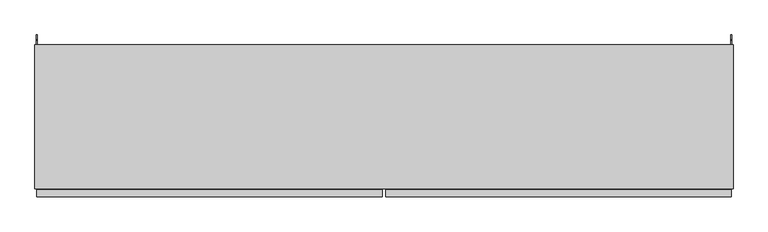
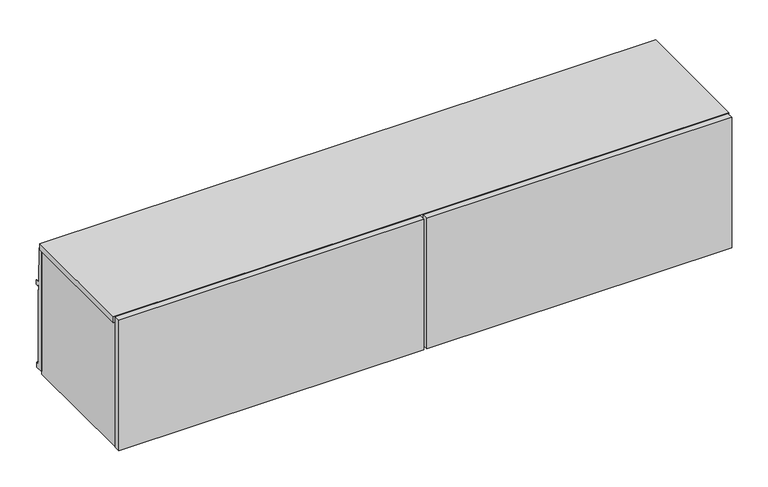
"""IFC4 building model written with IfcOpenShell, lengths in millimetres: furniture geometry, Steelcase - Universal Storage - Over the Case Bin - Flat Front : For Montage - 72W."""

from ifc_helpers import new_model, si_unit, frame, origin, place, context, project, spatial, polyline, outline, extrude, source, transform, mapped, element, save


def furniture_763f8af6(model_context):
    return source(origin(), model_context, "Body", "SweptSolid", [
        extrude(outline(polyline([(918.972, -379.476), (1824.3703, -379.476), (1824.3703, -398.526), (918.972, -398.526), (918.972, -379.476)])), frame((0.0, 0.0, 1266.8226746), z_axis=(0.0, 0.0, 1.0), x_axis=(1.0, 0.0, 0.0)), (0.0, 0.0, 1.0), 409.5773254),
        extrude(outline(polyline([(4.4448587, -379.476), (909.828, -379.476), (909.828, -398.526), (4.4448587, -398.526), (4.4448587, -379.476)])), frame((0.0, 0.0, 1266.8226746), z_axis=(0.0, 0.0, 1.0), x_axis=(1.0, 0.0, 0.0)), (0.0, 0.0, 1.0), 409.5773254),
        extrude(outline(polyline([(0.0, 1657.096), (10.1677703, 1657.096), (13.3857995, 1545.8185744), (26.0095997, 1545.8185744), (26.0095997, 1532.1025512), (17.5768, 1532.1025512), (17.5768, 1537.1064608), (13.3349998, 1537.1064608), (13.3349998, 1522.6538546), (14.2747998, 1522.6538546), (14.2747998, 1296.0858527), (17.2466001, 1296.0858527), (17.2466001, 1289.7358043), (22.5806007, 1289.7358043), (22.5806007, 1274.2164027), (0.0, 1274.2164027), (0.0, 1657.096)])), frame((1823.2882, 0.0, 0.0), z_axis=(1.0, 0.0, 0.0), x_axis=(0.0, 1.0, 0.0)), (0.0, 0.0, 1.0), 1.905),
        extrude(outline(polyline([(1828.8, -377.213238), (0.0, -377.213238), (0.0, 0.0), (1828.8, 0.0), (1828.8, -377.213238)])), frame((0.0, 0.0, 1657.35), z_axis=(0.0, 0.0, 1.0), x_axis=(1.0, 0.0, 0.0)), (0.0, 0.0, 1.0), 19.05),
        extrude(outline(polyline([(15.875, -377.213238), (5.5118, -377.213238), (5.5118, 0.0), (15.875, 0.0), (15.875, -377.213238)])), frame((0.0, 0.0, 1265.428), z_axis=(0.0, 0.0, 1.0), x_axis=(1.0, 0.0, 0.0)), (0.0, 0.0, 1.0), 391.6679457),
        extrude(outline(polyline([(1827.6568665, -377.213238), (1812.925, -377.213238), (1812.925, 0.0), (1827.6568665, 0.0), (1827.6568665, -377.213238)])), frame((0.0, 0.0, 1265.428), z_axis=(0.0, 0.0, 1.0), x_axis=(1.0, 0.0, 0.0)), (0.0, 0.0, 1.0), 391.6679457),
        extrude(outline(polyline([(0.0, 1657.096), (10.1677703, 1657.096), (13.3857995, 1545.8185744), (26.0095997, 1545.8185744), (26.0095997, 1532.1025512), (17.5768, 1532.1025512), (17.5768, 1537.1064608), (13.3349998, 1537.1064608), (13.3349998, 1522.6538546), (14.2747998, 1522.6538546), (14.2747998, 1296.0858527), (17.2466001, 1296.0858527), (17.2466001, 1289.7358043), (22.5806007, 1289.7358043), (22.5806007, 1274.2164027), (0.0, 1274.2164027), (0.0, 1657.096)])), frame((3.6068, 0.0, 0.0), z_axis=(1.0, 0.0, 0.0), x_axis=(0.0, 1.0, 0.0)), (0.0, 0.0, 1.0), 1.905),
        extrude(outline(polyline([(-35.4584098, 1372.819257), (-27.0763996, 1372.819257), (-27.0763996, 1360.1191601), (-33.4264117, 1360.1191601), (-33.4264117, 1323.1622589), (-27.0763996, 1323.1622589), (-27.0763996, 1265.428), (-35.4584098, 1265.428), (-35.4584098, 1293.054213), (-46.1263996, 1293.054213), (-46.1263996, 1268.1875622), (-59.9694137, 1268.1875622), (-59.9694137, 1294.8575912), (-332.8542818, 1294.8575912), (-332.8542818, 1268.1875622), (-377.3042823, 1268.1875622), (-377.3042823, 1310.7072052), (-35.4584098, 1310.7072052), (-35.4584098, 1372.819257)])), frame((15.875, 0.0, 0.0), z_axis=(1.0, 0.0, 0.0), x_axis=(0.0, 1.0, 0.0)), (0.0, 0.0, 1.0), 1797.05),
    ])


if __name__ == "__main__":
    model = new_model("IFC4")
    model_context = context("Model", 3, world=origin())
    ifc_project = project(units=[si_unit("LENGTHUNIT", "METRE", prefix="MILLI")], contexts=[model_context])
    site = spatial("IfcSite", under=ifc_project)
    building = spatial("IfcBuilding", under=site)
    placement = place(None, origin())
    furniture_shape = furniture_763f8af6(model_context)
    element("IfcFurniture", 1, ObjectType="Steelcase - Universal Storage - Over the Case Bin - Flat Front : For Montage - 72W", at=placement, inside=building, context=model_context, shape_type="MappedRepresentation", body=[
        mapped(furniture_shape, transform((0.0, 0.0, 0.0), x_axis=(1.0, 0.0, 0.0), y_axis=(0.0, 1.0, 0.0), z_axis=(0.0, 0.0, 1.0))),
    ])
    save(model, "model.ifc")
